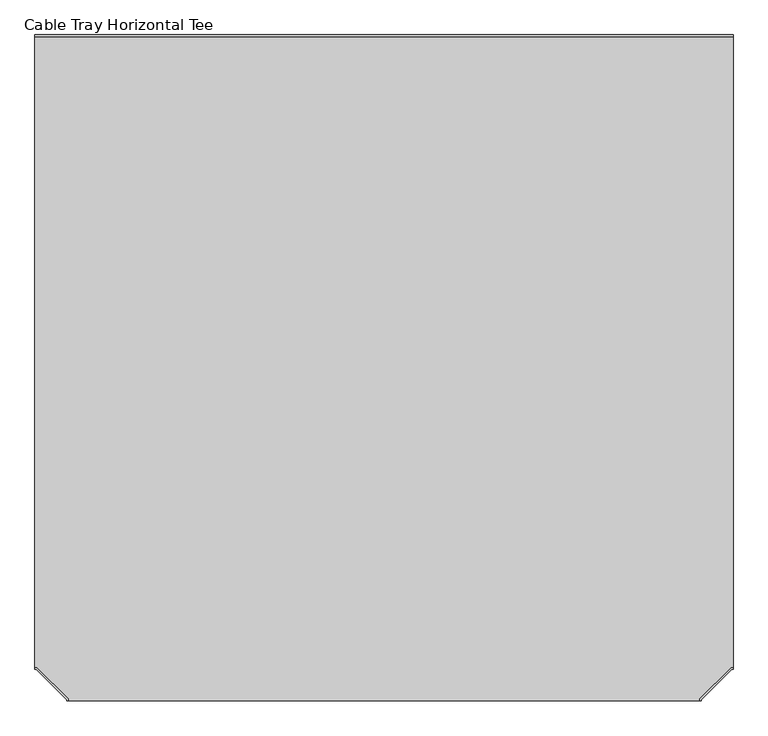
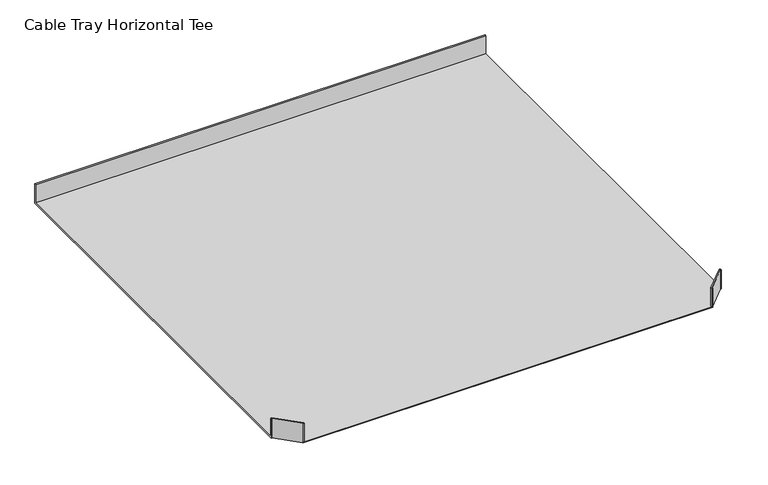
"""IFC4 building model written with IfcOpenShell, lengths in millimetres: cable carrier fitting geometry, Cable Tray Horizontal Tee : ELEC_MAIN_CT_N2402."""

from ifc_helpers import new_model, si_unit, origin, place, context, project, spatial, faceted_brep, source, transform, mapped, element, save


def cable_tray_horizontal_tee_29fe30fd(model_context):
    return source(origin(), model_context, "Body", "Brep", [
        faceted_brep([(-497.46, -550.0, -22.46), (497.46, -550.0, -22.46), (497.46, -546.9478976, -22.46), (546.9478976, -497.46, -22.46), (550.0, -497.46, -22.46), (550.0, 497.46, -22.46), (-550.0, 497.46, -22.46), (-550.0, -497.46, -22.46), (-546.9478976, -497.46, -22.46), (-497.46, -546.9478976, -22.46), (-500.0, -548.0, -25.0), (-548.0, -500.0, -25.0), (-550.0, -500.0, -25.0), (-550.0, 500.0, -25.0), (550.0, 500.0, -25.0), (550.0, -500.0, -25.0), (548.0, -500.0, -25.0), (500.0, -548.0, -25.0), (500.0, -550.0, -25.0), (-500.0, -550.0, -25.0), (-500.0, -550.0, 25.0), (-500.0, -548.0, 25.0), (500.0, -550.0, 25.0), (497.46, -550.0, 25.0), (-497.46, -550.0, 25.0), (500.0, -548.0, 25.0), (548.0, -500.0, 25.0), (550.0, -500.0, 25.0), (550.0, 500.0, 25.0), (550.0, 497.46, 25.0), (550.0, -497.46, 25.0), (-550.0, 500.0, 25.0), (-550.0, -500.0, 25.0), (-550.0, -497.46, 25.0), (-550.0, 497.46, 25.0), (-548.0, -500.0, 25.0), (-497.46, -546.9478976, 25.0), (-546.9478976, -497.46, 25.0), (497.46, -546.9478976, 25.0), (546.9478976, -497.46, 25.0)], [[[0, 1, 2, 3, 4, 5, 6, 7, 8, 9]], [[10, 11, 12, 13, 14, 15, 16, 17, 18, 19]], [[10, 19, 20, 21]], [[20, 19, 18, 22, 23, 1, 0, 24]], [[22, 18, 17, 25]], [[25, 17, 16, 26]], [[26, 16, 15, 27]], [[27, 15, 14, 28, 29, 5, 4, 30]], [[28, 14, 13, 31]], [[31, 13, 12, 32, 33, 7, 6, 34]], [[32, 12, 11, 35]], [[35, 11, 10, 21]], [[28, 31, 34, 29]], [[36, 37, 33, 32, 35, 21, 20, 24]], [[38, 23, 22, 25, 26, 27, 30, 39]], [[37, 36, 9, 8]], [[33, 37, 8, 7]], [[36, 24, 0, 9]], [[39, 30, 4, 3]], [[38, 39, 3, 2]], [[23, 38, 2, 1]], [[29, 34, 6, 5]]]),
    ])


if __name__ == "__main__":
    model = new_model("IFC4")
    model_context = context("Model", 3, world=origin())
    ifc_project = project(units=[si_unit("LENGTHUNIT", "METRE", prefix="MILLI")], contexts=[model_context])
    site = spatial("IfcSite", under=ifc_project)
    building = spatial("IfcBuilding", under=site)
    placement = place(None, origin())
    cable_tray_horizontal_tee_shape = cable_tray_horizontal_tee_29fe30fd(model_context)
    element("IfcCableCarrierFitting", 1, ObjectType="Cable Tray Horizontal Tee : ELEC_MAIN_CT_N2402", at=placement, inside=building, context=model_context, shape_type="MappedRepresentation", body=[
        mapped(cable_tray_horizontal_tee_shape, transform((0.0, 0.0, 0.0), x_axis=(1.0, 0.0, 0.0), y_axis=(0.0, 1.0, 0.0), z_axis=(0.0, 0.0, 1.0))),
    ])
    save(model, "model.ifc")
